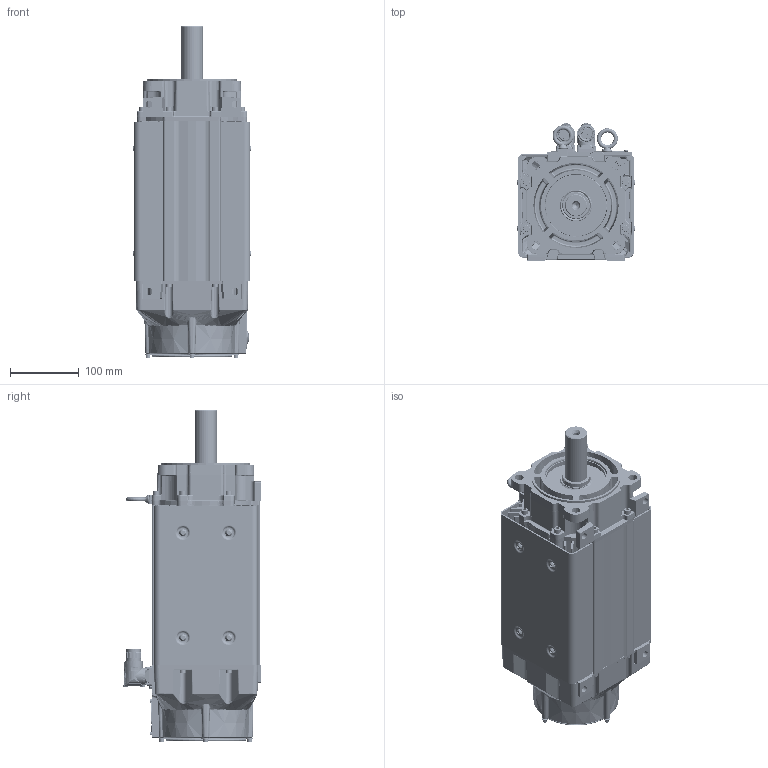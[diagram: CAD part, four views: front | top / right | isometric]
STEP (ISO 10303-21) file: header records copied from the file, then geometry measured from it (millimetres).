
FILE_DESCRIPTION((''),'2;1');
FILE_NAME('VPC-B1653A-YK72FX_ASM','2016-09-27T',('SRGaddam'),('Rockwell Automation'),'PRO/ENGINEER BY PARAMETRIC TECHNOLOGY CORPORATION, 2012480','PRO/ENGINEER BY PARAMETRIC TECHNOLOGY CORPORATION, 2012480','');
FILE_SCHEMA(('CONFIG_CONTROL_DESIGN'));
Products named in the file (42): 10001392731_AF0; 10001392729_AF3; 10001392735_ASM; CH25X125; 10001406995; 0019-1060; 10001384085; 10001587021; 10001383815_AF63; 10001383705_AF59; 10001383836_ASM; 10001421128; 10001933608; 10001713557; 10001713565_ASM; 91290A148BR; 10001289776; CH4X050; 10001336508; 10001409703; 10001587458; 91290A115; 10001299929; 10001284567; 10001430805; 10001587431; 10000231113; 10001430839_ASM; 10001609981; 0002-5006; 10001586879; 10001393622_KEYLESS; 142413_923; PRT0001_923; 142413-1_923_ASM; 10000172464; M923_ASM; 142414_623; 135798_623; 142414-1_623_ASM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
Assembly tree (82 placements, depth 4):
  VPC-B1653A-YK72FX_ASM
    10001392735_ASM
      10001392731_AF0
      10001392729_AF3
    CH25X125  x8
    10001406995
    0019-1060
    10001384085  x2
    10001587021  x8
    10001383836_ASM
      10001383815_AF63
      10001383705_AF59
    10001430839_ASM
      10001421128
      10001713565_ASM
        10001933608
        10001713557
      91290A148BR  x9
      10001289776
      CH4X050  x2
      10001336508
      10001409703
      10001587458
      91290A115  x5
      10001299929
      10001284567
      10001430805
      10001587431
      10000231113
    10001609981
    0002-5006  x2
    10001586879  x6
    10001393622_KEYLESS
    M923_ASM
      142413-1_923_ASM
        142413_923
        PRT0001_923
      10000172464  x4
    M623_ASM
      142414-1_623_ASM
        142414_623
        135798_623
      10000172464  x4
Bounding box: 170.91 x 199.8 x 483.18 mm (x, y, z)
Volume: 3046788.5 mm3; surface area: 1152166.5 mm2
Topology: 82 solids, 82 shells, 6772 faces, 17364 edges, 11050 vertices
Faces by surface type: plane 2056, cylinder 1967, bspline 1120, cone 900, torus 594, sphere 132, extrusion 3
Entity records: 229055 total; most frequent: CARTESIAN_POINT 99488, ORIENTED_EDGE 28394, DIRECTION 25106, EDGE_CURVE 14197, AXIS2_PLACEMENT_3D 9392, VERTEX_POINT 9243, VECTOR 6322, LINE 6319
